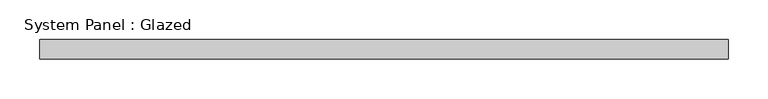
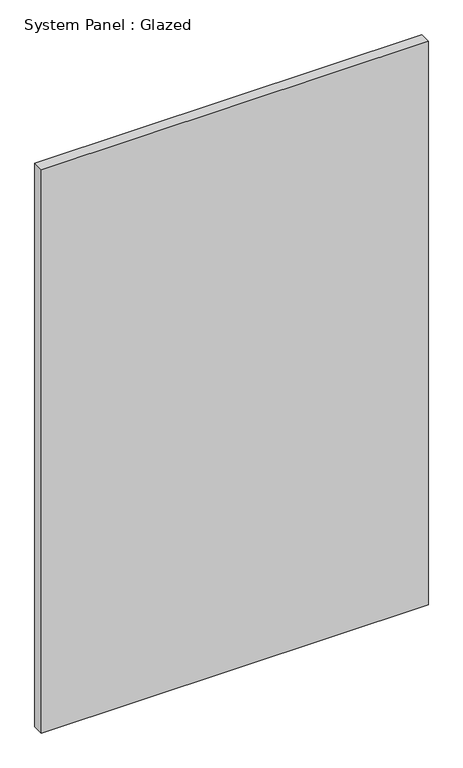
"""IFC4 building model written with IfcOpenShell, lengths in millimetres: plate geometry, System Panel : Glazed."""

from ifc_helpers import new_model, si_unit, origin, origin_with_axes, place, context, project, spatial, polyline, outline, extrude, source, transform, mapped, element, save


def system_panel_glazed_1f05e993(model_context):
    return source(origin(), model_context, "Body", "SweptSolid", [
        extrude(outline(polyline([(435.4736842, -49.5), (-435.4736842, -49.5), (-435.4736842, -24.5), (435.4736842, -24.5), (435.4736842, -49.5)])), origin_with_axes(), (0.0, 0.0, 1.0), 1340.0),
    ])


if __name__ == "__main__":
    model = new_model("IFC4")
    model_context = context("Model", 3, world=origin())
    ifc_project = project(units=[si_unit("LENGTHUNIT", "METRE", prefix="MILLI")], contexts=[model_context])
    site = spatial("IfcSite", under=ifc_project)
    building = spatial("IfcBuilding", under=site)
    placement = place(None, origin())
    system_panel_glazed_shape = system_panel_glazed_1f05e993(model_context)
    element("IfcPlate", 1, ObjectType="System Panel : Glazed", at=placement, inside=building, context=model_context, shape_type="MappedRepresentation", body=[
        mapped(system_panel_glazed_shape, transform((0.0, 0.0, 0.0), x_axis=(1.0, 0.0, 0.0), y_axis=(0.0, 1.0, 0.0), z_axis=(0.0, 0.0, 1.0))),
    ])
    save(model, "model.ifc")
